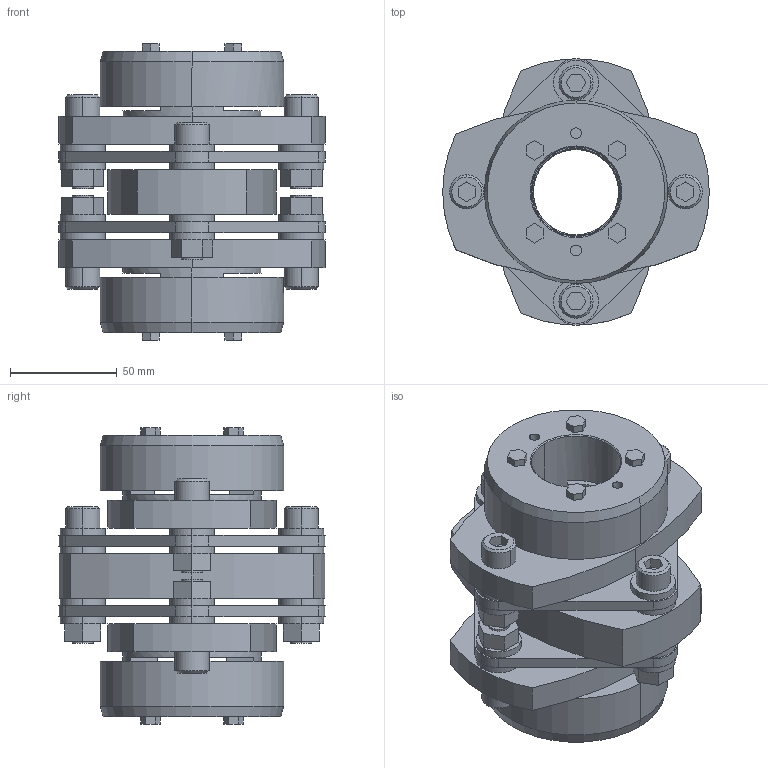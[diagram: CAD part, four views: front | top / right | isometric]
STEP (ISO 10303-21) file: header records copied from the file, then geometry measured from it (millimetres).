
FILE_DESCRIPTION((''),'2;1');
FILE_NAME('LCD-125T7-40×42.stp','2011-09-07T10:24:13',(''),(''),'AutoCAD STEP 2000i','AutoCAD 2000i',', , ');
FILE_SCHEMA(('CONFIG_CONTROL_DESIGN'));
Length unit declared in the file: millimetre
Products named in the file (9): LCD-125T7-40×40; 忣兜1; LC125T7-T040-1; LC125T7-T040; LC125T7-T038; LC125T7-T035; LC125T7-T032-1; LC125T7-T032; LCD125-ITA
Assembly tree (8 placements, depth 2):
  LCD-125T7-40×40
    忣兜1
    LC125T7-T040-1
    LC125T7-T040
    LC125T7-T038
    LC125T7-T035
    LC125T7-T032-1
    LC125T7-T032
    LCD125-ITA
Bounding box: 125 x 124.91 x 139 mm (x, y, z)
Volume: 674033.6 mm3; surface area: 140182.1 mm2
Topology: 1 solids, 1 shells, 334 faces, 818 edges, 538 vertices
Faces by surface type: plane 190, cylinder 120, cone 24
Entity records: 10127 total; most frequent: DIRECTION 1786, CARTESIAN_POINT 1699, ORIENTED_EDGE 1636, EDGE_CURVE 818, AXIS2_PLACEMENT_3D 625, VERTEX_POINT 538, VECTOR 536, LINE 536
